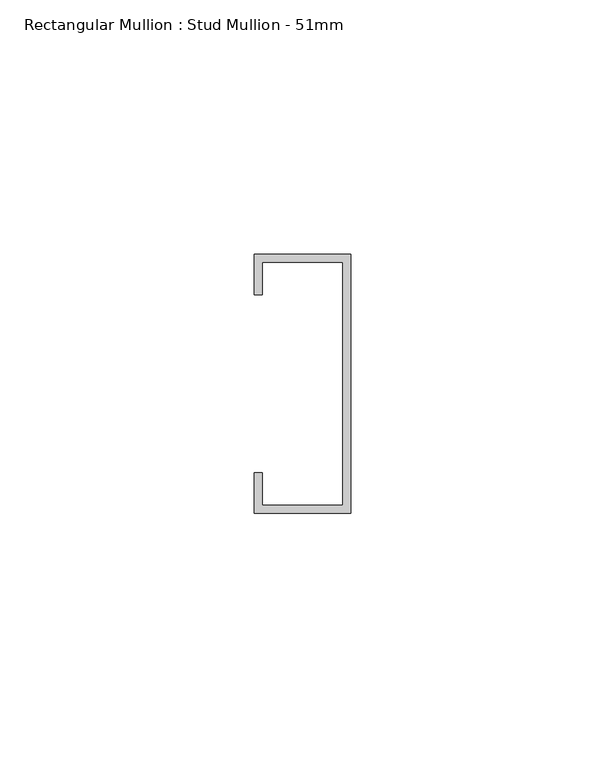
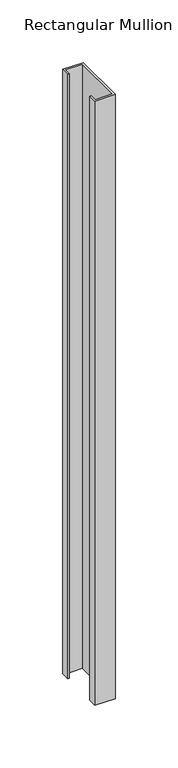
"""IFC4 building model written with IfcOpenShell, lengths in millimetres: member geometry, Rectangular Mullion : Stud Mullion - 51mm."""

from ifc_helpers import new_model, si_unit, frame, origin, place, context, project, spatial, polyline, outline, extrude, source, transform, mapped, element, save


def rectangular_mullion_stud_mullion_51mm_d7622182(model_context):
    return source(origin(), model_context, "Body", "SweptSolid", [
        extrude(outline(polyline([(-19.0, 17.5), (-19.0, 25.5), (0.0, 25.5), (0.0, -25.5), (-19.0, -25.5), (-19.0, -17.5), (-17.4, -17.5), (-17.4, -23.9), (-1.6, -23.9), (-1.6, 23.9), (-17.4, 23.9), (-17.4, 17.5), (-19.0, 17.5)])), frame((0.0, 0.0, -588.8999998), z_axis=(0.0, 0.0, 1.0), x_axis=(1.0, 0.0, 0.0)), (0.0, 0.0, 1.0), 588.8999998),
    ])


if __name__ == "__main__":
    model = new_model("IFC4")
    model_context = context("Model", 3, world=origin())
    ifc_project = project(units=[si_unit("LENGTHUNIT", "METRE", prefix="MILLI")], contexts=[model_context])
    site = spatial("IfcSite", under=ifc_project)
    building = spatial("IfcBuilding", under=site)
    placement = place(None, origin())
    rectangular_mullion_stud_mullion_51mm_shape = rectangular_mullion_stud_mullion_51mm_d7622182(model_context)
    element("IfcMember", 1, ObjectType="Rectangular Mullion : Stud Mullion - 51mm", at=placement, inside=building, context=model_context, shape_type="MappedRepresentation", body=[
        mapped(rectangular_mullion_stud_mullion_51mm_shape, transform((0.0, 0.0, 0.0), x_axis=(1.0, 0.0, 0.0), y_axis=(0.0, 1.0, 0.0), z_axis=(0.0, 0.0, 1.0))),
    ])
    save(model, "model.ifc")
